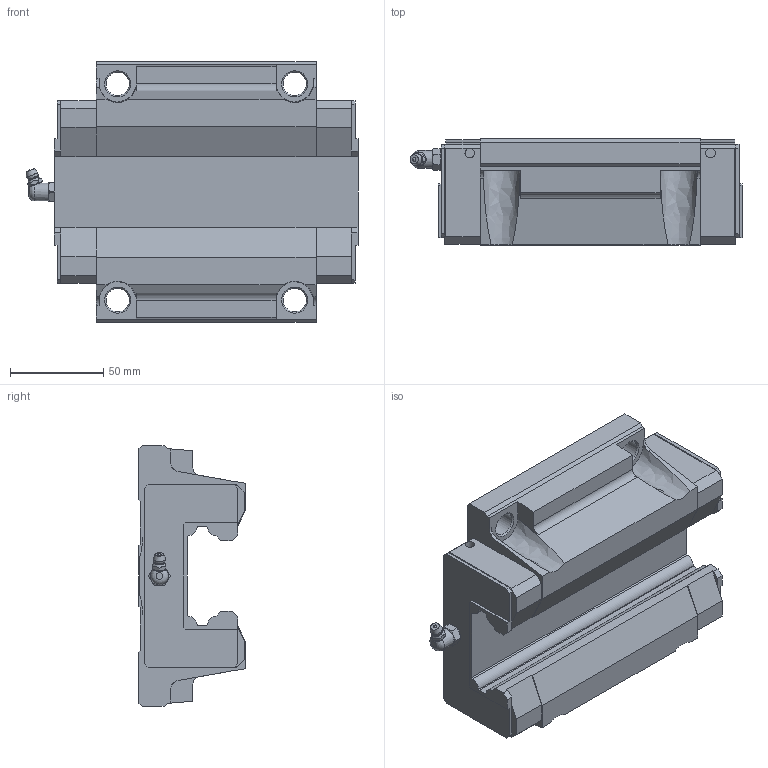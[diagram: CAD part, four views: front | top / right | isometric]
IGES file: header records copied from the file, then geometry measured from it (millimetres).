
Start section: Data from Parasolid IGES Translator 26.0.171, Copyright(c) 2006 Siemens PLM Software. All Rights Reserved.
Global section: file name: HSR55C1SS(GK) BLOCK(1B-PT1_8).igs; native system: By Siemens PLM Incorporated; preprocessor: XPlus GENERIC/IGES 26.0.171; author: Noname; organization: Noname; date: 20240521.045526; units: millimetre
Bounding box: 178.2 x 57 x 140 mm (x, y, z)
Surface area: 84375.3 mm2 (no closed solid volume)
Topology: 0 solids, 0 shells, 226 faces, 1225 edges, 1190 vertices
Faces by surface type: extrusion 165, revolution 61
